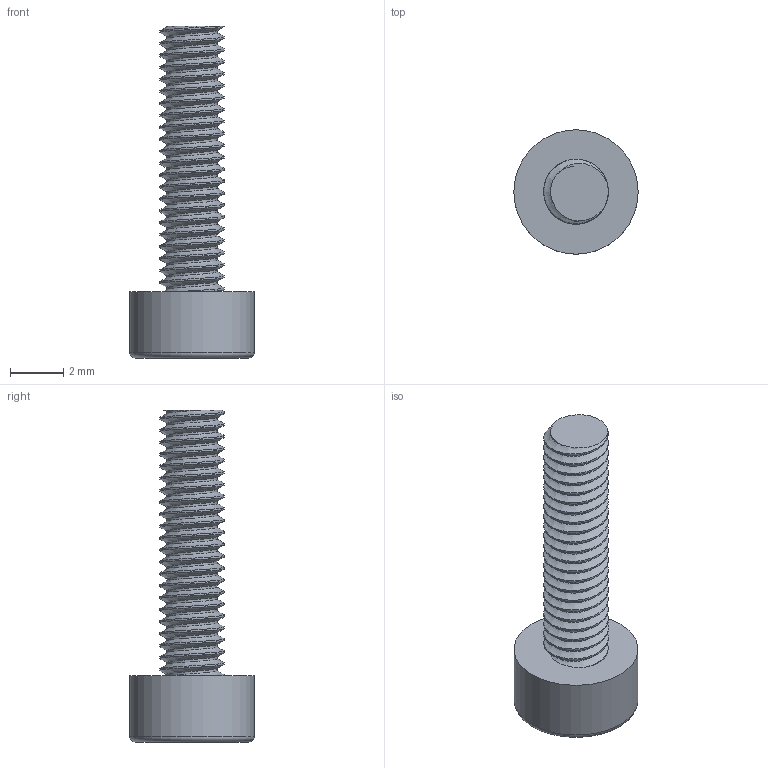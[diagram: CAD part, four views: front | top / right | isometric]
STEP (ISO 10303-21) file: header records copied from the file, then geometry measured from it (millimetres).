
FILE_DESCRIPTION(/* description */ (''),/* implementation_level */ '2;1');
FILE_NAME(/* name */ '2.5 screw 1.step',/* time_stamp */ '2024-05-03T10:55:30+02:00',/* author */ (''),/* organization */ (''),/* preprocessor_version */ 'ST-DEVELOPER v20',/* originating_system */ 'Autodesk Translation Framework v12.20.1.177',/* authorisation */ '');
FILE_SCHEMA (('AUTOMOTIVE_DESIGN { 1 0 10303 214 3 1 1 }'));
Length unit declared in the file: millimetre
Products named in the file (1): FusionComponent
Bounding box: 4.68 x 4.68 x 12.5 mm (x, y, z)
Volume: 75.7 mm3; surface area: 190.7 mm2
Topology: 1 solids, 1 shells, 61 faces, 170 edges, 113 vertices
Faces by surface type: cylinder 48, plane 10, bspline 2, torus 1
Full cylindrical faces by diameter (mm): 1.916 x8, 2.43 x14, 4.68 x1
Entity records: 4629 total; most frequent: CARTESIAN_POINT 3209, ORIENTED_EDGE 340, DIRECTION 202, EDGE_CURVE 170, VERTEX_POINT 113, B_SPLINE_CURVE_WITH_KNOTS 97, AXIS2_PLACEMENT_3D 69, LINE 64
